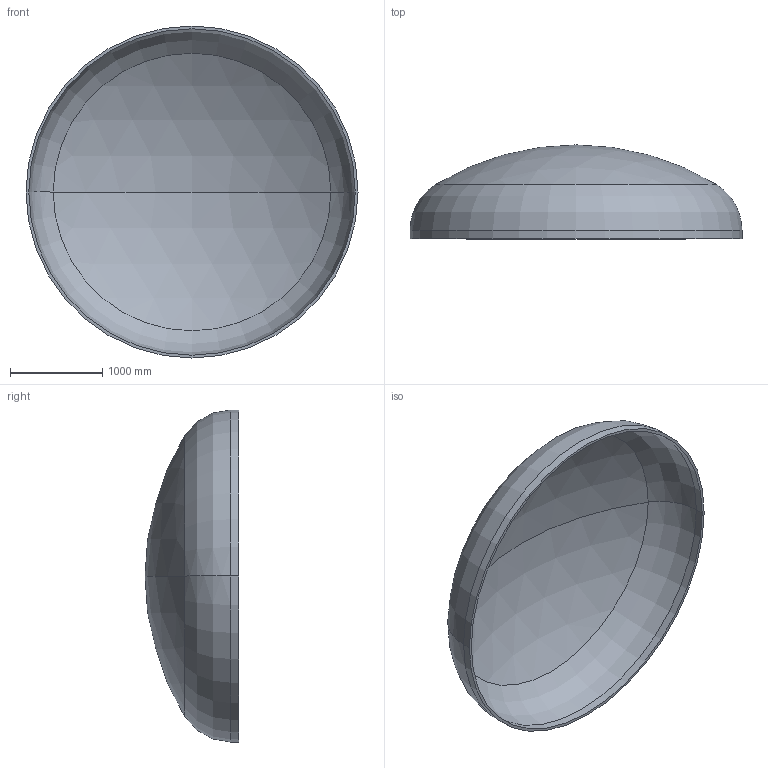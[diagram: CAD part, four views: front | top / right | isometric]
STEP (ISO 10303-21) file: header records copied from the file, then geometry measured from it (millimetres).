
FILE_DESCRIPTION (( 'STEP AP203' ), '1' );
FILE_NAME ('DIN 28013 Korbbogenform_-_Boden DIN 28013 - 3600 x 90 - I - s=30.step', '2016-07-01T20:17:54', ( '' ), ( '' ), 'SwSTEP 2.0', 'SolidWorks 2013', '' );
FILE_SCHEMA (( 'CONFIG_CONTROL_DESIGN' ));
Length unit declared in the file: millimetre
Products named in the file (1): DIN 28013 Korbbogenform_-_Boden DIN 28013 - 3600 x 90 - I - s=30
Bounding box: 3600 x 1017.73 x 3600 mm (x, y, z)
Volume: 448660412.2 mm3; surface area: 30249032.4 mm2
Topology: 1 solids, 1 shells, 13 faces, 24 edges, 14 vertices
Faces by surface type: torus 4, cylinder 4, sphere 4, plane 1
Entity records: 407 total; most frequent: DIRECTION 72, CARTESIAN_POINT 52, ORIENTED_EDGE 48, AXIS2_PLACEMENT_3D 34, EDGE_CURVE 24, CIRCLE 20, EDGE_LOOP 14, VERTEX_POINT 14
